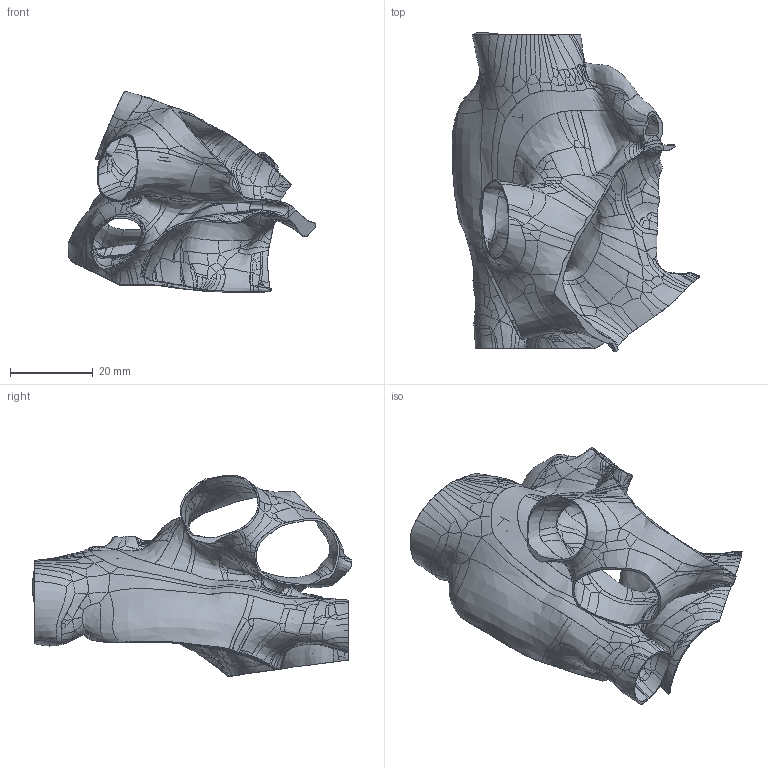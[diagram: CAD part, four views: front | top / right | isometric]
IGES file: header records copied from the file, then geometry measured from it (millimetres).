
Global section: file name: C:\FDA-Septal-Models\0026882\0026882.phase.0.igs; native system: Rhinoceros ( Mar  9 2011 ); preprocessor: Trout Lake IGES 012 Mar  9 2011; date: 120229.153034; units: millimetre
Bounding box: 59.84 x 77.21 x 48.65 mm (x, y, z)
Surface area: 18123.4 mm2 (no closed solid volume)
Topology: 0 solids, 0 shells, 1419 faces, 5672 edges, 5668 vertices
Faces by surface type: bspline 1419
